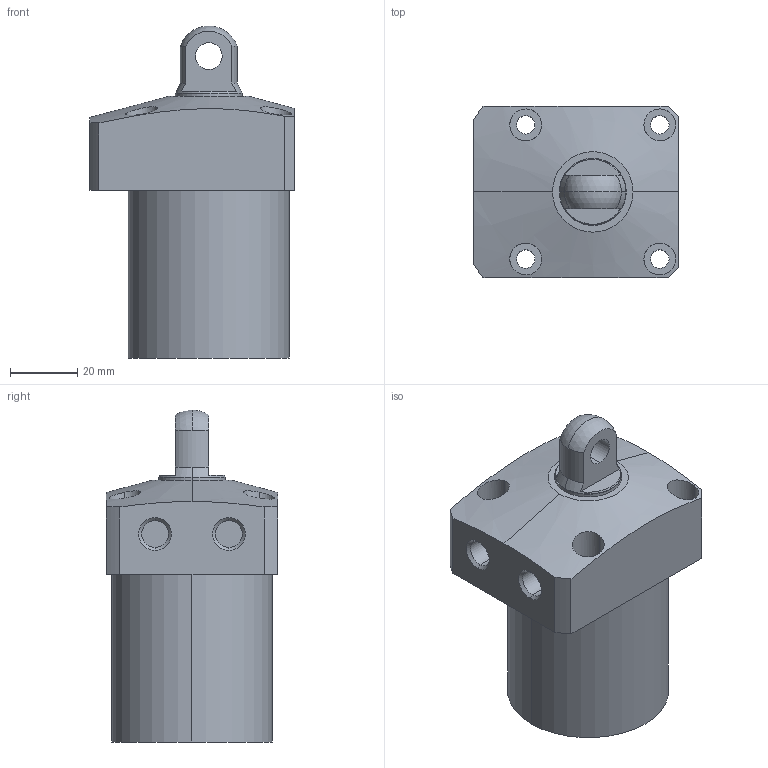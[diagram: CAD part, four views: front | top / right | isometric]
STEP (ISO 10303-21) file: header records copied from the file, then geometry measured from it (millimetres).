
FILE_DESCRIPTION (( 'STEP AP203' ), '1' );
FILE_NAME ('CLL-0480-CP-040.STEP', '2017-05-09T02:46:07', ( '' ), ( '' ), 'SwSTEP 2.0', 'SolidWorks 2015', '' );
FILE_SCHEMA (( 'CONFIG_CONTROL_DESIGN' ));
Length unit declared in the file: millimetre
Products named in the file (1): CLL-0480-CP-040
Bounding box: 61 x 51 x 99 mm (x, y, z)
Volume: 166148.3 mm3; surface area: 22227.8 mm2
Topology: 1 solids, 1 shells, 67 faces, 157 edges, 103 vertices
Faces by surface type: cylinder 35, plane 22, cone 8, sphere 2
Entity records: 2360 total; most frequent: CARTESIAN_POINT 682, DIRECTION 351, ORIENTED_EDGE 314, EDGE_CURVE 157, AXIS2_PLACEMENT_3D 146, VERTEX_POINT 103, EDGE_LOOP 88, CIRCLE 78
